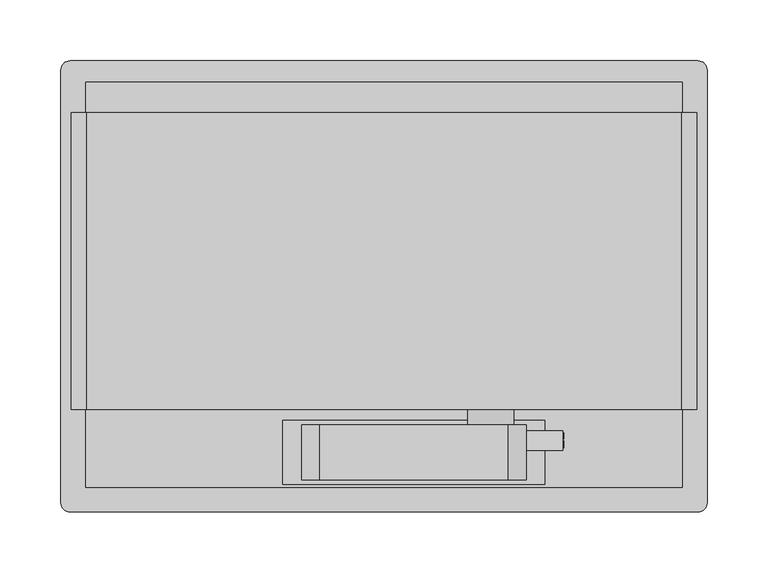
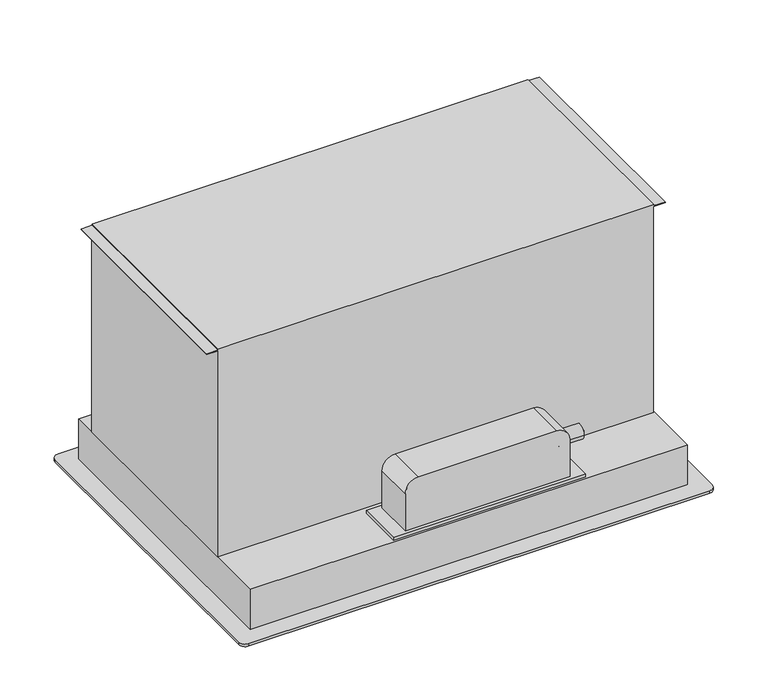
"""IFC4 building model written with IfcOpenShell, lengths in millimetres: proxy geometry, 12760950_CH_DAE1530_EDST : 28E1530S_CH_12760950_DAE1530_EDST."""

from ifc_helpers import new_model, si_unit, point, frame, frame_2d, origin, origin_with_axes, place, context, project, spatial, polyline, circle_curve, ellipse_curve, trimmed, segment, composite_curve, outline, extrude, faceted_brep, source, transform, mapped, element, save
from ifc_brep_helpers import plane_surface, cylinder_surface, revolved_surface, extruded_surface, advanced_brep


def specialty_equipment_5ccbf462(model_context):
    return source(origin(), model_context, "Body", "SolidModel", [
        extrude(outline(polyline([(-225.7941321, -333.5484139), (-224.8261321, -333.5484139), (-224.8261321, -328.1964139), (-225.7941321, -328.1964139), (-225.7941321, -326.8524139), (-222.2741321, -326.8524139), (-222.2741321, -328.1964139), (-223.2341321, -328.1964139), (-223.2341321, -331.5995386), (-219.6581321, -326.8524139), (-216.0661321, -331.6676362), (-216.0661321, -328.1964139), (-217.0501321, -328.1964139), (-217.0501321, -326.8524139), (-210.6661321, -326.8524139), (-210.6661321, -328.1964139), (-211.6821321, -328.1964139), (-211.6821321, -333.5484139), (-210.6661321, -333.5484139), (-210.6661321, -334.8524139), (-215.5381321, -334.8524139), (-217.8741321, -331.8524139), (-220.2181321, -334.8524139), (-225.7941321, -334.8524139), (-225.7941321, -333.5484139)])), frame((0.0, 0.0, 1.5), z_axis=(0.0, 0.0, 1.0), x_axis=(1.0, 0.0, 0.0)), (0.0, 0.0, 1.0), 1.0),
        extrude(outline(polyline([(-193.3301321, -333.5484139), (-192.3701321, -333.5484139), (-192.3701321, -328.1964139), (-193.3301321, -328.1964139), (-193.3301321, -326.8524139), (-186.8421321, -326.8524139), (-186.8421321, -328.1964139), (-187.8261321, -328.1964139), (-187.8261321, -334.8524139), (-193.3301321, -334.8524139), (-193.3301321, -333.5484139)])), frame((0.0, 0.0, 1.5), z_axis=(0.0, 0.0, 1.0), x_axis=(1.0, 0.0, 0.0)), (0.0, 0.0, 1.0), 1.0),
        extrude(outline(polyline([(-207.8741321, -334.3804139), (-207.2661321, -333.0844139), (-204.5541321, -334.3484139), (-205.1541321, -335.6444139), (-207.8741321, -334.3804139)])), frame((0.0, 0.0, 1.5), z_axis=(0.0, 0.0, 1.0), x_axis=(1.0, 0.0, 0.0)), (0.0, 0.0, 1.0), 1.0),
        extrude(outline(polyline([(-209.8501321, -332.9084139), (-209.8501321, -331.4764139), (-208.8981321, -331.4764139), (-208.8981321, -328.1964139), (-209.8501321, -328.1964139), (-209.8501321, -326.8524139), (-203.5381321, -326.8524139), (-203.5381321, -328.1964139), (-204.4661321, -328.1964139), (-204.4661321, -332.9084139), (-209.8501321, -332.9084139)])), frame((0.0, 0.0, 1.5), z_axis=(0.0, 0.0, 1.0), x_axis=(1.0, 0.0, 0.0)), (0.0, 0.0, 1.0), 1.0),
        advanced_brep(
        [(-199.1301321, -328.7484139, 2.5), (-198.2341321, -327.8524139, 2.5), (-196.3301321, -328.7484139, 2.5), (-193.9141321, -328.7484139, 2.5), (-200.8901321, -326.8524139, 2.5), (-203.0901321, -329.5564139, 2.5), (-193.7781321, -329.5564139, 2.5), (-199.1301321, -329.5564139, 2.5), (-199.1301321, -330.5804139, 2.5), (-197.7621321, -330.5804139, 2.5), (-197.7621321, -331.4524139, 2.5), (-199.1301321, -331.4524139, 2.5), (-199.1301321, -328.7484139, 1.5), (-199.1301321, -329.5564139, 1.5), (-193.7781321, -329.5564139, 1.5), (-203.0901321, -329.5564139, 1.5), (-200.8901321, -326.8524139, 1.5), (-193.9141321, -328.7484139, 1.5), (-196.3301321, -328.7484139, 1.5), (-198.2341321, -327.8524139, 1.5), (-199.1301321, -330.5804139, 1.5), (-199.1301321, -331.4524139, 1.5), (-197.7621321, -331.4524139, 1.5), (-197.7621321, -330.5804139, 1.5)],
        [
            (0, 1, circle_curve(frame((-198.2341321, -328.7484139, 2.5), z_axis=(0.0, 0.0, -1.0), x_axis=(1.0, 0.0, 0.0)), 0.896)),
            (1, 2, circle_curve(frame((-197.8430733, -329.4924139, 2.5), z_axis=(0.0, 0.0, -1.0), x_axis=(1.0, 0.0, 0.0)), 1.6859795)),
            (2, 3),
            (3, 4, circle_curve(frame((-198.5273385, -331.9404139, 2.5), z_axis=(0.0, 0.0, 1.0), x_axis=(1.0, 0.0, 0.0)), 5.6098607)),
            (4, 5, circle_curve(frame((-199.9940885, -329.8284139, 2.5), z_axis=(0.0, 0.0, 1.0), x_axis=(1.0, 0.0, 0.0)), 3.1079688)),
            (5, 6, ellipse_curve(frame((-198.4341321, -329.5564139, 2.5), z_axis=(0.0, 0.0, 1.0), x_axis=(-1.0, 0.0, 0.0)), 4.656, 3.848)),
            (6, 7),
            (7, 0),
            (8, 9),
            (9, 10),
            (10, 11, circle_curve(frame((-198.4461321, -331.4524139, 2.5), z_axis=(0.0, 0.0, -1.0), x_axis=(1.0, 0.0, 0.0)), 0.684)),
            (11, 8),
            (12, 13),
            (13, 14),
            (14, 15, ellipse_curve(frame((-198.4341321, -329.5564139, 1.5), z_axis=(0.0, 0.0, -1.0), x_axis=(-1.0, 0.0, 0.0)), 4.656, 3.848)),
            (15, 16, circle_curve(frame((-199.9940885, -329.8284139, 1.5), z_axis=(0.0, 0.0, -1.0), x_axis=(1.0, 0.0, 0.0)), 3.1079688)),
            (16, 17, circle_curve(frame((-198.5273385, -331.9404139, 1.5), z_axis=(0.0, 0.0, -1.0), x_axis=(1.0, 0.0, 0.0)), 5.6098607)),
            (17, 18),
            (18, 19, circle_curve(frame((-197.8430733, -329.4924139, 1.5), z_axis=(0.0, 0.0, 1.0), x_axis=(1.0, 0.0, 0.0)), 1.6859795)),
            (19, 12, circle_curve(frame((-198.2341321, -328.7484139, 1.5), z_axis=(0.0, 0.0, 1.0), x_axis=(1.0, 0.0, 0.0)), 0.896)),
            (20, 21),
            (21, 22, circle_curve(frame((-198.4461321, -331.4524139, 1.5), z_axis=(0.0, 0.0, 1.0), x_axis=(1.0, 0.0, 0.0)), 0.684)),
            (22, 23),
            (23, 20),
            (7, 13),
            (12, 0),
            (6, 14),
            (2, 18),
            (17, 3),
            (5, 15),
            (1, 19),
            (4, 16),
            (11, 21),
            (20, 8),
            (10, 22),
            (9, 23),
        ],
        [
            plane_surface(frame((-197.3381321, -328.7484139, 2.5), z_axis=(0.0, 0.0, 1.0), x_axis=(0.0, -1.0, 0.0))),
            plane_surface(frame((-197.3381321, -328.7484139, 1.5), z_axis=(0.0, 0.0, -1.0), x_axis=(0.0, 1.0, 0.0))),
            plane_surface(frame((-199.1301321, -329.5564139, 2.5), z_axis=(1.0, 0.0, 0.0), x_axis=(0.0, 0.0, -1.0))),
            plane_surface(frame((-193.7781321, -329.5564139, 2.5), z_axis=(0.0, 1.0, 0.0), x_axis=(0.0, 0.0, -1.0))),
            plane_surface(frame((-196.3301321, -328.7484139, 2.5), z_axis=(0.0, -1.0, 0.0), x_axis=(0.0, 0.0, -1.0))),
            extruded_surface(trimmed(ellipse_curve(frame((-198.4341321, -329.5564139, 0.5), z_axis=(0.0, 0.0, 1.0), x_axis=(-1.0, 0.0, 0.0)), 4.656, 3.848), [point((-203.0901321, -329.5564139, 0.5))], [point((-193.7781321, -329.5564139, 0.5))], True, "CARTESIAN"), (0.0, 0.0, 1.0), 1.0),
            revolved_surface(polyline([(-196.15709379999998, -329.4924139, 1.5), (-196.15709379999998, -329.4924139, 2.5)]), (-197.8430733, -329.4924139, 1.5), (0.0, 0.0, -1.0)),
            revolved_surface(polyline([(-197.33813210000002, -328.7484139, 1.5), (-197.33813210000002, -328.7484139, 2.5)]), (-198.2341321, -328.7484139, 1.5), (0.0, 0.0, -1.0)),
            cylinder_surface(frame((-199.9940885, -329.8284139, 1.5), z_axis=(0.0, 0.0, 1.0), x_axis=(1.0, 0.0, 0.0)), 3.1079688),
            cylinder_surface(frame((-198.5273385, -331.9404139, 1.5), z_axis=(0.0, 0.0, 1.0), x_axis=(1.0, 0.0, 0.0)), 5.6098607),
            plane_surface(frame((-199.1301321, -331.4524139, 2.5), z_axis=(1.0, 0.0, 0.0), x_axis=(0.0, 0.0, -1.0))),
            revolved_surface(polyline([(-197.7621321, -331.4524139, 1.5), (-197.7621321, -331.4524139, 2.5)]), (-198.4461321, -331.4524139, 1.5), (0.0, 0.0, -1.0)),
            plane_surface(frame((-197.7621321, -330.5804139, 2.5), z_axis=(-1.0, 0.0, 0.0), x_axis=(0.0, 0.0, -1.0))),
            plane_surface(frame((-199.1301321, -330.5804139, 2.5), z_axis=(0.0, -1.0, 0.0), x_axis=(0.0, 0.0, -1.0))),
        ],
        [
            (0, [[1, 2, 3, 4, 5, 6, 7, 8], [9, 10, 11, 12]]),
            (1, [[13, 14, 15, 16, 17, 18, 19, 20], [21, 22, 23, 24]]),
            (2, [[-8, 25, -13, 26]]),
            (3, [[-7, 27, -14, -25]]),
            (4, [[-3, 28, -18, 29]]),
            (5, [[-6, 30, -15, -27]]),
            (6, [[-2, 31, -19, -28]]),
            (7, [[-1, -26, -20, -31]]),
            (8, [[-5, 32, -16, -30]]),
            (9, [[-4, -29, -17, -32]]),
            (10, [[-12, 33, -21, 34]]),
            (11, [[-11, 35, -22, -33]]),
            (12, [[-10, 36, -23, -35]]),
            (13, [[-9, -34, -24, -36]]),
        ],
    ),
        advanced_brep(
        [(-182.4341321, -328.7484139, 2.5), (-181.5381321, -327.8524139, 2.5), (-179.6341321, -328.7484139, 2.5), (-177.2181321, -328.7484139, 2.5), (-184.1941321, -326.8524139, 2.5), (-186.3941321, -329.5564139, 2.5), (-177.0821321, -329.5564139, 2.5), (-182.4341321, -329.5564139, 2.5), (-182.4341321, -330.5804139, 2.5), (-181.0661321, -330.5804139, 2.5), (-181.0661321, -331.4524139, 2.5), (-182.4341321, -331.4524139, 2.5), (-182.4341321, -328.7484139, 1.5), (-182.4341321, -329.5564139, 1.5), (-177.0821321, -329.5564139, 1.5), (-186.3941321, -329.5564139, 1.5), (-184.1941321, -326.8524139, 1.5), (-177.2181321, -328.7484139, 1.5), (-179.6341321, -328.7484139, 1.5), (-181.5381321, -327.8524139, 1.5), (-182.4341321, -330.5804139, 1.5), (-182.4341321, -331.4524139, 1.5), (-181.0661321, -331.4524139, 1.5), (-181.0661321, -330.5804139, 1.5)],
        [
            (0, 1, circle_curve(frame((-181.5381321, -328.7484139, 2.5), z_axis=(0.0, 0.0, -1.0), x_axis=(1.0, 0.0, 0.0)), 0.896)),
            (1, 2, circle_curve(frame((-181.1470733, -329.4924139, 2.5), z_axis=(0.0, 0.0, -1.0), x_axis=(1.0, 0.0, 0.0)), 1.6859795)),
            (2, 3),
            (3, 4, circle_curve(frame((-181.8313385, -331.9404139, 2.5), z_axis=(0.0, 0.0, 1.0), x_axis=(1.0, 0.0, 0.0)), 5.6098607)),
            (4, 5, circle_curve(frame((-183.2980885, -329.8284139, 2.5), z_axis=(0.0, 0.0, 1.0), x_axis=(1.0, 0.0, 0.0)), 3.1079688)),
            (5, 6, ellipse_curve(frame((-181.7381321, -329.5564139, 2.5), z_axis=(0.0, 0.0, 1.0), x_axis=(-1.0, 0.0, 0.0)), 4.656, 3.848)),
            (6, 7),
            (7, 0),
            (8, 9),
            (9, 10),
            (10, 11, circle_curve(frame((-181.7501321, -331.4524139, 2.5), z_axis=(0.0, 0.0, -1.0), x_axis=(1.0, 0.0, 0.0)), 0.684)),
            (11, 8),
            (12, 13),
            (13, 14),
            (14, 15, ellipse_curve(frame((-181.7381321, -329.5564139, 1.5), z_axis=(0.0, 0.0, -1.0), x_axis=(-1.0, 0.0, 0.0)), 4.656, 3.848)),
            (15, 16, circle_curve(frame((-183.2980885, -329.8284139, 1.5), z_axis=(0.0, 0.0, -1.0), x_axis=(1.0, 0.0, 0.0)), 3.1079688)),
            (16, 17, circle_curve(frame((-181.8313385, -331.9404139, 1.5), z_axis=(0.0, 0.0, -1.0), x_axis=(1.0, 0.0, 0.0)), 5.6098607)),
            (17, 18),
            (18, 19, circle_curve(frame((-181.1470733, -329.4924139, 1.5), z_axis=(0.0, 0.0, 1.0), x_axis=(1.0, 0.0, 0.0)), 1.6859795)),
            (19, 12, circle_curve(frame((-181.5381321, -328.7484139, 1.5), z_axis=(0.0, 0.0, 1.0), x_axis=(1.0, 0.0, 0.0)), 0.896)),
            (20, 21),
            (21, 22, circle_curve(frame((-181.7501321, -331.4524139, 1.5), z_axis=(0.0, 0.0, 1.0), x_axis=(1.0, 0.0, 0.0)), 0.684)),
            (22, 23),
            (23, 20),
            (7, 13),
            (12, 0),
            (6, 14),
            (2, 18),
            (17, 3),
            (5, 15),
            (1, 19),
            (4, 16),
            (11, 21),
            (20, 8),
            (10, 22),
            (9, 23),
        ],
        [
            plane_surface(frame((-180.6421321, -328.7484139, 2.5), z_axis=(0.0, 0.0, 1.0), x_axis=(0.0, -1.0, 0.0))),
            plane_surface(frame((-180.6421321, -328.7484139, 1.5), z_axis=(0.0, 0.0, -1.0), x_axis=(0.0, 1.0, 0.0))),
            plane_surface(frame((-182.4341321, -329.5564139, 2.5), z_axis=(1.0, 0.0, 0.0), x_axis=(0.0, 0.0, -1.0))),
            plane_surface(frame((-177.0821321, -329.5564139, 2.5), z_axis=(0.0, 1.0, 0.0), x_axis=(0.0, 0.0, -1.0))),
            plane_surface(frame((-179.6341321, -328.7484139, 2.5), z_axis=(0.0, -1.0, 0.0), x_axis=(0.0, 0.0, -1.0))),
            extruded_surface(trimmed(ellipse_curve(frame((-181.7381321, -329.5564139, 0.5), z_axis=(0.0, 0.0, 1.0), x_axis=(-1.0, 0.0, 0.0)), 4.656, 3.848), [point((-186.3941321, -329.5564139, 0.5))], [point((-177.0821321, -329.5564139, 0.5))], True, "CARTESIAN"), (0.0, 0.0, 1.0), 1.0),
            revolved_surface(polyline([(-179.4610938, -329.4924139, 1.5), (-179.4610938, -329.4924139, 2.5)]), (-181.1470733, -329.4924139, 1.5), (0.0, 0.0, -1.0)),
            revolved_surface(polyline([(-180.64213210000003, -328.7484139, 1.5), (-180.64213210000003, -328.7484139, 2.5)]), (-181.5381321, -328.7484139, 1.5), (0.0, 0.0, -1.0)),
            cylinder_surface(frame((-183.2980885, -329.8284139, 1.5), z_axis=(0.0, 0.0, 1.0), x_axis=(1.0, 0.0, 0.0)), 3.1079688),
            cylinder_surface(frame((-181.8313385, -331.9404139, 1.5), z_axis=(0.0, 0.0, 1.0), x_axis=(1.0, 0.0, 0.0)), 5.6098607),
            plane_surface(frame((-182.4341321, -331.4524139, 2.5), z_axis=(1.0, 0.0, 0.0), x_axis=(0.0, 0.0, -1.0))),
            revolved_surface(polyline([(-181.0661321, -331.4524139, 1.5), (-181.0661321, -331.4524139, 2.5)]), (-181.7501321, -331.4524139, 1.5), (0.0, 0.0, -1.0)),
            plane_surface(frame((-181.0661321, -330.5804139, 2.5), z_axis=(-1.0, 0.0, 0.0), x_axis=(0.0, 0.0, -1.0))),
            plane_surface(frame((-182.4341321, -330.5804139, 2.5), z_axis=(0.0, -1.0, 0.0), x_axis=(0.0, 0.0, -1.0))),
        ],
        [
            (0, [[1, 2, 3, 4, 5, 6, 7, 8], [9, 10, 11, 12]]),
            (1, [[13, 14, 15, 16, 17, 18, 19, 20], [21, 22, 23, 24]]),
            (2, [[-8, 25, -13, 26]]),
            (3, [[-7, 27, -14, -25]]),
            (4, [[-3, 28, -18, 29]]),
            (5, [[-6, 30, -15, -27]]),
            (6, [[-2, 31, -19, -28]]),
            (7, [[-1, -26, -20, -31]]),
            (8, [[-5, 32, -16, -30]]),
            (9, [[-4, -29, -17, -32]]),
            (10, [[-12, 33, -21, 34]]),
            (11, [[-11, 35, -22, -33]]),
            (12, [[-10, 36, -23, -35]]),
            (13, [[-9, -34, -24, -36]]),
        ],
    ),
        extrude(outline(polyline([(296.5, 244.25), (296.5, -244.25), (295.0, -244.25), (295.0, -256.9500122), (294.2000122, -256.9500122), (294.2000122, -245.0), (50.0, -245.0), (50.0, 243.5), (294.2000122, 243.5), (294.2000122, 257.0), (295.0, 257.0), (295.0, 244.25), (296.5, 244.25)])), frame((0.0, -286.6999947, 0.0), z_axis=(0.0, 1.0, 0.0), x_axis=(0.0, 0.0, 1.0)), (0.0, 0.0, 1.0), 244.0999947),
        extrude(outline(composite_curve([segment(polyline([(112.6984177, 101.6984177), (112.6984177, -52.7015762)]), True, "CONTINUOUS"), segment(trimmed(circle_curve(frame_2d((97.6999969, -52.7015762)), 14.9984207), [point((112.6984177, -52.7015762))], [point((97.6999969, -67.6999969))], False, "CARTESIAN"), True, "CONTINUOUS"), segment(polyline([(97.6999969, -67.6999969), (53.7, -67.6999969), (53.7, 116.6984177), (97.6984177, 116.6984177)]), True, "CONTINUOUS"), segment(trimmed(circle_curve(frame_2d((97.6984177, 101.6984177)), 15.0), [point((97.6984177, 116.6984177))], [point((112.6984177, 101.6984177))], False, "CARTESIAN"), True, "CONTINUOUS")], self_intersect=False)), frame((0.0, -344.3834171, 0.0), z_axis=(0.0, 1.0, 0.0), x_axis=(0.0, 0.0, 1.0)), (0.0, 0.0, 1.0), 45.0),
        advanced_brep(
        [(131.9981079, -295.3834171, 50.0), (131.9981079, -295.3834171, 53.7), (131.9981079, -348.1834049, 53.7), (131.9981079, -348.1834049, 50.0), (-82.9981079, -295.3834171, 50.0), (-82.9981079, -348.1834049, 50.0), (-82.9981079, -348.1834049, 53.7), (-82.9981079, -295.3834171, 53.7), (106.5986328, -295.3834171, 50.0), (106.5986328, -295.3834171, 53.7), (68.6110001, -295.3834171, 53.7), (68.6110001, -295.3834171, 50.0), (106.5986328, -299.3834171, 53.7), (68.6110001, -299.3834171, 53.7), (106.5986328, -286.6999947, 57.0), (106.5986328, -286.6999947, 50.0), (68.6110001, -286.6999947, 50.0), (68.6110001, -286.6999947, 57.0), (106.5986328, -299.3834171, 57.0), (68.6110001, -299.3834171, 57.0)],
        [
            (0, 1),
            (1, 2),
            (2, 3),
            (3, 0),
            (4, 5),
            (5, 6),
            (6, 7),
            (7, 4),
            (0, 8),
            (8, 9),
            (9, 1),
            (7, 10),
            (10, 11),
            (11, 4),
            (9, 12),
            (12, 13),
            (13, 10),
            (6, 2),
            (5, 3),
            (14, 15),
            (15, 16),
            (16, 17),
            (17, 14, circle_curve(frame((87.6048164, -286.6999947, 57.0), z_axis=(0.0, 1.0, 0.0), x_axis=(1.0, 0.0, 0.0)), 18.9938164)),
            (18, 19, circle_curve(frame((87.6048164, -299.3834171, 57.0), z_axis=(0.0, -1.0, 0.0), x_axis=(1.0, 0.0, 0.0)), 18.9938164)),
            (19, 13),
            (12, 18),
            (17, 19),
            (18, 14),
            (16, 11),
            (15, 8),
        ],
        [
            plane_surface(frame((131.9981079, -295.3834171, 50.0), z_axis=(1.0, 0.0, 0.0), x_axis=(0.0, 0.0, 1.0))),
            plane_surface(frame((-82.9981079, -295.3834171, 50.0), z_axis=(-1.0, 0.0, 0.0), x_axis=(0.0, 0.0, -1.0))),
            plane_surface(frame((131.9981079, -295.3834171, 50.0), z_axis=(0.0, 1.0, 0.0), x_axis=(-1.0, 0.0, 0.0))),
            plane_surface(frame((131.9981079, -295.3834171, 53.7), z_axis=(0.0, 0.0, 1.0), x_axis=(-1.0, 0.0, 0.0))),
            plane_surface(frame((131.9981079, -348.1834049, 53.7), z_axis=(0.0, -1.0, 0.0), x_axis=(-1.0, 0.0, 0.0))),
            plane_surface(frame((106.5986328, -286.6999947, 57.0), z_axis=(0.0, 1.0, 0.0), x_axis=(0.0, 0.0, -1.0))),
            plane_surface(frame((106.5986328, -299.3834171, 57.0), z_axis=(0.0, -1.0, 0.0), x_axis=(0.0, 0.0, 1.0))),
            cylinder_surface(frame((87.6048164, -286.6999947, 57.0), z_axis=(0.0, -1.0, 0.0), x_axis=(1.0, 0.0, 0.0)), 18.9938164),
            plane_surface(frame((68.6110001, -299.3834171, 57.0), z_axis=(-1.0, 0.0, 0.0), x_axis=(0.0, 1.0, 0.0))),
            plane_surface(frame((68.6110001, -299.3834171, 50.0), z_axis=(0.0, 0.0, -1.0), x_axis=(0.0, 1.0, 0.0))),
            plane_surface(frame((106.5986328, -299.3834171, 50.0), z_axis=(1.0, 0.0, 0.0), x_axis=(0.0, 1.0, 0.0))),
        ],
        [
            (0, [[1, 2, 3, 4]]),
            (1, [[5, 6, 7, 8]]),
            (2, [[-1, 9, 10, 11]]),
            (2, [[-8, 12, 13, 14]]),
            (3, [[-2, -11, 15, 16, 17, -12, -7, 18]]),
            (4, [[-3, -18, -6, 19]]),
            (5, [[20, 21, 22, 23]]),
            (6, [[24, 25, -16, 26]]),
            (7, [[-23, 27, -24, 28]]),
            (8, [[-22, 29, -13, -17, -25, -27]]),
            (9, [[-21, 30, -9, -4, -19, -5, -14, -29]]),
            (10, [[-20, -28, -26, -15, -10, -30]]),
        ],
    ),
        extrude(outline(composite_curve([segment(trimmed(circle_curve(frame_2d((-312.191771, 77.5001221)), 8.0), [point((-320.191771, 77.5001221))], [point((-304.191771, 77.5001221))], False, "CARTESIAN"), True, "CONTINUOUS"), segment(trimmed(circle_curve(frame_2d((-312.191771, 77.5001221)), 8.0), [point((-304.191771, 77.5001221))], [point((-320.191771, 77.5001221))], False, "CARTESIAN"), True, "CONTINUOUS")], self_intersect=False)), frame((116.6984177, 0.0, 0.0), z_axis=(1.0, 0.0, 0.0), x_axis=(0.0, 1.0, 0.0)), (0.0, 0.0, 1.0), 30.0),
        extrude(outline(polyline([(-318.0935792, 73.5001221), (-318.0935792, 81.5366269), (-312.3173414, 81.5366269), (-312.3173414, 80.5320638), (-317.0890161, 80.5320638), (-317.0890161, 78.1462264), (-312.5684822, 78.1462264), (-312.5684822, 77.1416633), (-317.0890161, 77.1416633), (-317.0890161, 74.5046852), (-312.191771, 74.5046852), (-312.191771, 73.5001221), (-318.0935792, 73.5001221)])), frame((146.6984177, 0.0, 0.0), z_axis=(1.0, 0.0, 0.0), x_axis=(0.0, 1.0, 0.0)), (0.0, 0.0, 1.0), 1.0),
        extrude(outline(polyline([(-310.6849264, 73.5001221), (-310.6849264, 81.5366269), (-309.6803633, 81.5366269), (-309.6803633, 74.5046852), (-305.6621108, 74.5046852), (-305.6621108, 73.5001221), (-310.6849264, 73.5001221)])), frame((146.6984177, 0.0, 0.0), z_axis=(1.0, 0.0, 0.0), x_axis=(0.0, 1.0, 0.0)), (0.0, 0.0, 1.0), 1.0),
        faceted_brep([(245.0, -350.3834171, 2.5), (245.0, -17.3834171, 2.5), (245.0, -17.3834171, 50.0), (245.0, -350.3834171, 50.0), (-245.0, -350.3834171, 2.5), (-245.0, -350.3834171, 50.0), (-245.0, -17.3834171, 50.0), (-245.0, -17.3834171, 2.5), (244.25, -274.3553407, 2.5), (244.25, -21.1834171, 2.5), (-244.25, -21.1834171, 2.5), (-244.25, -274.3553407, 2.5), (126.5, -284.1834049, 2.5), (-126.5, -284.1834049, 2.5), (-126.5, -313.5834293, 2.5), (126.5, -313.5834293, 2.5), (-26.0999985, -324.9834232, 2.5), (-52.25, -324.9834232, 2.5), (-52.25, -337.1834049, 2.5), (-26.0999985, -337.1834049, 2.5), (-25.9147568, -337.1834049, 2.5), (25.9148577, -337.1834049, 2.5), (25.9148577, -324.9834232, 2.5), (-25.9147568, -324.9834232, 2.5), (26.1018654, -337.1834049, 2.5), (52.25, -337.1834049, 2.5), (52.25, -324.9834232, 2.5), (26.1018654, -324.9834232, 2.5), (244.25, -274.3553407, 48.1919471), (244.25, -21.1834171, 48.1919471), (-244.25, -21.1834171, 48.1919471), (-244.25, -274.3553407, 48.1919471), (126.5, -284.1834049, 48.1919471), (-126.5, -284.1834049, 48.1919471), (-126.5, -313.5834293, 48.1919471), (126.5, -313.5834293, 48.1919471), (-26.0999985, -324.9834232, 0.9177094), (-26.0999985, -337.1834049, 0.9177094), (-52.25, -337.1834049, 0.9177094), (-52.25, -324.9834232, 0.9177094), (-25.9147568, -337.1834049, 0.9177094), (-25.9147568, -324.9834232, 0.9177094), (25.9148577, -324.9834232, 0.9177094), (25.9148577, -337.1834049, 0.9177094), (26.1018654, -337.1834049, 0.9177094), (26.1018654, -324.9834232, 0.9177094), (52.25, -324.9834232, 0.9177094), (52.25, -337.1834049, 0.9177094)], [[[0, 1, 2, 3]], [[4, 5, 6, 7]], [[1, 0, 4, 7], [8, 9, 10, 11], [12, 13, 14, 15], [16, 17, 18, 19], [20, 21, 22, 23], [24, 25, 26, 27]], [[2, 1, 7, 6]], [[3, 2, 6, 5]], [[0, 3, 5, 4]], [[28, 29, 9, 8]], [[29, 30, 10, 9]], [[30, 31, 11, 10]], [[31, 28, 8, 11]], [[32, 33, 13, 12]], [[33, 34, 14, 13]], [[34, 35, 15, 14]], [[35, 32, 12, 15]], [[36, 37, 38, 39]], [[40, 41, 42, 43]], [[44, 45, 46, 47]], [[36, 39, 17, 16]], [[39, 38, 18, 17]], [[38, 37, 19, 18]], [[37, 36, 16, 19]], [[40, 43, 21, 20]], [[43, 42, 22, 21]], [[42, 41, 23, 22]], [[41, 40, 20, 23]], [[44, 47, 25, 24]], [[47, 46, 26, 25]], [[46, 45, 27, 26]], [[45, 44, 24, 27]], [[28, 31, 30, 29]], [[32, 35, 34, 33]]]),
        extrude(outline(polyline([(243.25, -21.8834171), (243.25, -271.8834171), (-243.1999969, -271.8834171), (-243.1999969, -21.8834171), (243.25, -21.8834171)]), holes=[polyline([(234.25, -30.8834171), (-234.25, -30.8834171), (-234.25, -262.8834171), (234.25, -262.8834171), (234.25, -30.8834171)])]), frame((0.0, 0.0, 3.1099722), z_axis=(0.0, 0.0, 1.0), x_axis=(1.0, 0.0, 0.0)), (0.0, 0.0, 1.0), 9.0573642),
        extrude(outline(composite_curve([segment(trimmed(circle_curve(frame_2d((257.8734131, -7.5)), 7.5), [point((257.8734131, 0.0))], [point((265.3734131, -7.5))], False, "CARTESIAN"), True, "CONTINUOUS"), segment(polyline([(265.3734131, -7.5), (265.3734131, -363.26684)]), True, "CONTINUOUS"), segment(trimmed(circle_curve(frame_2d((257.8734131, -363.26684)), 7.5), [point((265.3734131, -363.26684))], [point((257.8734131, -370.76684))], False, "CARTESIAN"), True, "CONTINUOUS"), segment(polyline([(257.8734131, -370.76684), (-257.8734131, -370.76684)]), True, "CONTINUOUS"), segment(trimmed(circle_curve(frame_2d((-257.8734131, -363.26684)), 7.5), [point((-257.8734131, -370.76684))], [point((-265.3734131, -363.26684))], False, "CARTESIAN"), True, "CONTINUOUS"), segment(polyline([(-265.3734131, -363.26684), (-265.3734131, -7.5)]), True, "CONTINUOUS"), segment(trimmed(circle_curve(frame_2d((-257.8734131, -7.5)), 7.5), [point((-265.3734131, -7.5))], [point((-257.8734131, 0.0))], False, "CARTESIAN"), True, "CONTINUOUS"), segment(polyline([(-257.8734131, 0.0), (257.8734131, 0.0)]), True, "CONTINUOUS")], self_intersect=False), holes=[polyline([(245.0, -350.3834171), (245.0, -17.3834171), (-245.0, -17.3834171), (-245.0, -350.3834171), (245.0, -350.3834171)])]), origin_with_axes(), (0.0, 0.0, 1.0), 2.9999745),
        extrude(outline(polyline([(126.5, -284.1834049), (126.5, -313.5834293), (-126.5, -313.5834293), (-126.5, -284.1834049), (126.5, -284.1834049)]), holes=[polyline([(119.0, -292.6334171), (-119.0, -292.6334171), (-119.0, -305.1334171), (119.0, -305.1334171), (119.0, -292.6334171)])]), frame((0.0, 0.0, 2.8), z_axis=(0.0, 0.0, 1.0), x_axis=(1.0, 0.0, 0.0)), (0.0, 0.0, 1.0), 1.5000002),
        extrude(outline(polyline([(119.0, -292.6334171), (119.0, -305.1334171), (-119.0, -305.1334171), (-119.0, -292.6334171), (119.0, -292.6334171)])), frame((0.0, 0.0, 2.8), z_axis=(0.0, 0.0, 1.0), x_axis=(1.0, 0.0, 0.0)), (0.0, 0.0, 1.0), 1.5000002),
        faceted_brep([(234.25, -30.8834171, 12.1673365), (-234.25, -30.8834171, 12.1673365), (-234.25, -262.8834171, 12.1673365), (234.25, -262.8834171, 12.1673365), (234.25, -30.8834171, 5.609972), (234.25, -262.8834171, 5.609972), (16.5, -262.8834171, 5.609972), (16.5, -219.8834171, 5.609972), (-16.5, -219.8834171, 5.609972), (-16.5, -262.8834171, 5.609972), (-234.25, -262.8834171, 5.609972), (-234.25, -30.8834171, 5.609972), (10.1999998, -227.861948, 5.609972), (10.1999998, -256.783411, 5.609972), (-10.1999998, -256.783411, 5.609972), (-10.1999998, -227.861948, 5.609972), (-16.5, -262.8834171, 4.609972), (16.5, -262.8834171, 4.609972), (16.5, -219.8834171, 4.609972), (-16.5, -219.8834171, 4.609972), (10.1999998, -227.861948, 4.609972), (-10.1999998, -227.861948, 4.609972), (-10.1999998, -256.783411, 4.609972), (10.1999998, -256.783411, 4.609972)], [[[0, 1, 2, 3]], [[4, 5, 6, 7, 8, 9, 10, 11]], [[12, 13, 14, 15]], [[1, 0, 4, 11]], [[2, 1, 11, 10]], [[3, 2, 10, 9, 16, 17, 6, 5]], [[0, 3, 5, 4]], [[18, 17, 16, 19], [20, 21, 22, 23]], [[18, 19, 8, 7]], [[19, 16, 9, 8]], [[17, 18, 7, 6]], [[20, 23, 13, 12]], [[23, 22, 14, 13]], [[22, 21, 15, 14]], [[21, 20, 12, 15]]]),
        extrude(outline(polyline([(10.1999998, -236.4387302), (10.1999998, -256.783411), (-10.1999998, -256.783411), (-10.1999998, -236.4387302), (10.1999998, -236.4387302)])), frame((0.0, 0.0, 4.7647753), z_axis=(0.0, 0.0, 1.0), x_axis=(1.0, 0.0, 0.0)), (0.0, 0.0, 1.0), 0.8451967),
    ])


if __name__ == "__main__":
    model = new_model("IFC4")
    model_context = context("Model", 3, world=origin())
    ifc_project = project(units=[si_unit("LENGTHUNIT", "METRE", prefix="MILLI")], contexts=[model_context])
    site = spatial("IfcSite", under=ifc_project)
    building = spatial("IfcBuilding", under=site)
    placement = place(None, origin())
    specialty_equipment_shape = specialty_equipment_5ccbf462(model_context)
    element("IfcBuildingElementProxy", 1, Name="12760950_CH_DAE1530_EDST : 28E1530S_CH_12760950_DAE1530_EDST", ObjectType="12760950_CH_DAE1530_EDST : 28E1530S_CH_12760950_DAE1530_EDST", at=placement, inside=building, context=model_context, shape_type="MappedRepresentation", body=[
        mapped(specialty_equipment_shape, transform((0.0, 0.0, 0.0), x_axis=(1.0, 0.0, 0.0), y_axis=(0.0, 1.0, 0.0), z_axis=(0.0, 0.0, 1.0))),
    ])
    save(model, "model.ifc")
